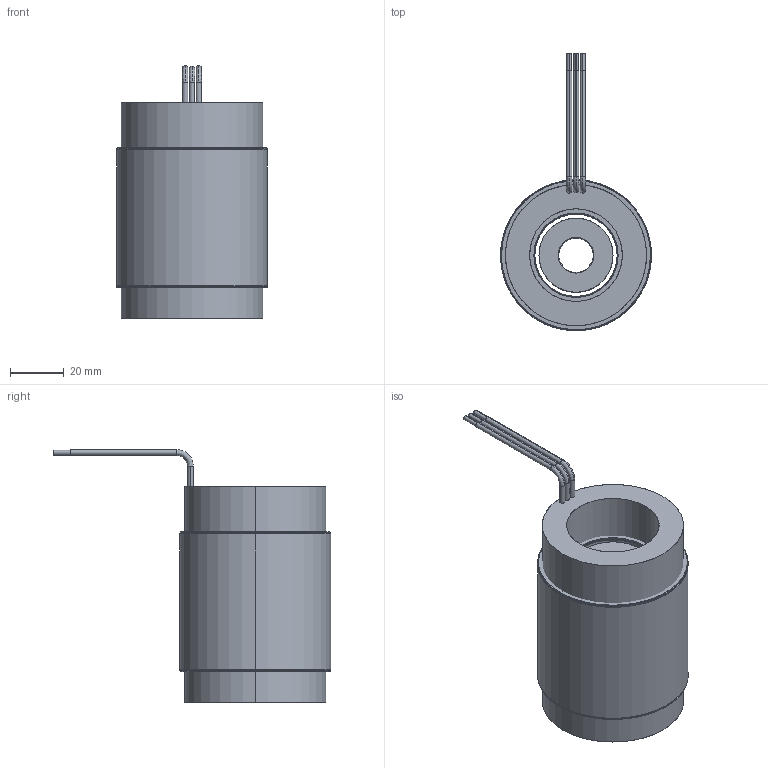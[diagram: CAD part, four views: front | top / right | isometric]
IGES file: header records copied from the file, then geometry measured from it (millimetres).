
Start section: SolidWorks IGES file using analytic representation for surfaces
Global section: file name: \\fs01.aveox.local\user documents\eng\My Documents\STANDARD STATOR ROTOR SETS\Standard rotor and stator set released\2.2 inch stator diameter\6100252-04.IGS; native system: SolidWorks 2016; preprocessor: SolidWorks 2016; author: eng; date: 191111.085733; units: millimetre
Bounding box: 55.85 x 102.72 x 93.6 mm (x, y, z)
Surface area: 63740 mm2 (no closed solid volume)
Topology: 0 solids, 0 shells, 84 faces, 2220 edges, 2220 vertices
Faces by surface type: revolution 50, bspline 34
